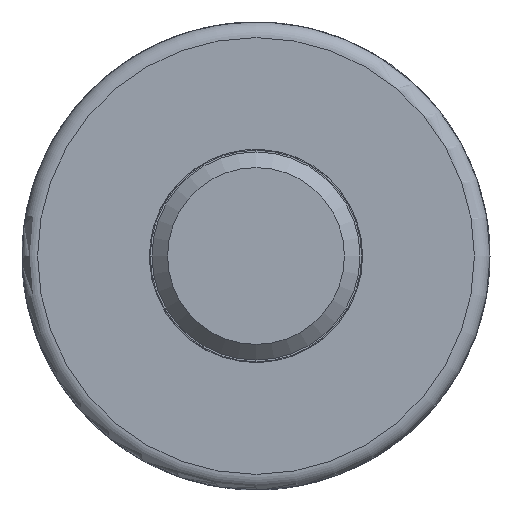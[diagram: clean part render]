
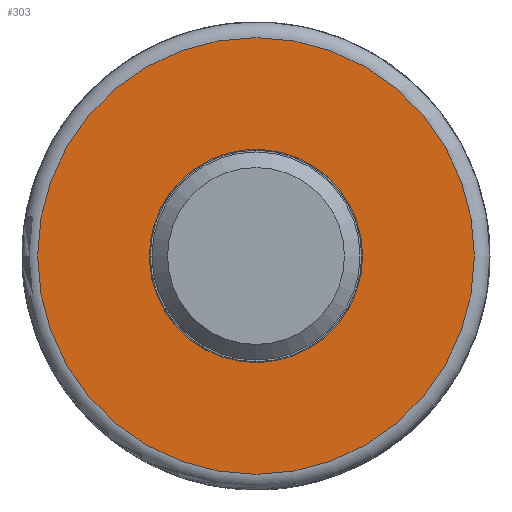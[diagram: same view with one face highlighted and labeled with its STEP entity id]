
A CAD part, front view. The second image highlights one B-rep face of the part: STEP entity #303.
In plain terms, the highlighted planar face has unit normal (0, -1, 0).
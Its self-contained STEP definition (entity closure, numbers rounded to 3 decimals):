
#303=ADVANCED_FACE('',(#387,#388),#339,.T.);
#339=PLANE('',#1209);
#355=CIRCLE('',#1194,2.05);
#364=CIRCLE('',#1208,4.2);
#387=FACE_BOUND('',#449,.T.);
#388=FACE_BOUND('',#450,.T.);
#449=EDGE_LOOP('',(#705));
#450=EDGE_LOOP('',(#706));
#705=ORIENTED_EDGE('',*,*,#1012,.T.);
#706=ORIENTED_EDGE('',*,*,#1003,.F.);
#865=VERTEX_POINT('',#6622);
#866=VERTEX_POINT('',#6637);
#1003=EDGE_CURVE('',#865,#865,#355,.T.);
#1012=EDGE_CURVE('',#866,#866,#364,.T.);
#1194=AXIS2_PLACEMENT_3D('',#6621,#1403,#1404);
#1208=AXIS2_PLACEMENT_3D('',#6636,#1431,#1432);
#1209=AXIS2_PLACEMENT_3D('',#6638,#1433,#1434);
#1403=DIRECTION('',(0.,-1.,0.));
#1404=DIRECTION('',(1.,0.,0.));
#1431=DIRECTION('',(0.,-1.,0.));
#1432=DIRECTION('',(1.,0.,0.));
#1433=DIRECTION('',(0.,-1.,0.));
#1434=DIRECTION('',(-1.,0.,0.));
#6621=CARTESIAN_POINT('',(-43.01,-41.,0.));
#6622=CARTESIAN_POINT('',(-40.96,-41.,0.));
#6636=CARTESIAN_POINT('',(-43.01,-41.,0.));
#6637=CARTESIAN_POINT('',(-38.81,-41.,0.));
#6638=CARTESIAN_POINT('',(-40.72,-41.,0.));
